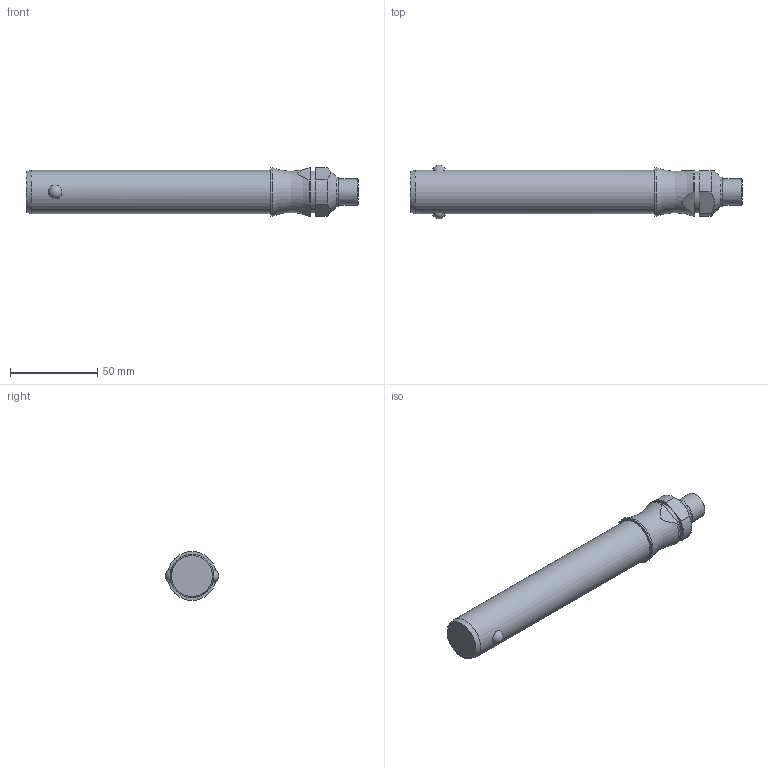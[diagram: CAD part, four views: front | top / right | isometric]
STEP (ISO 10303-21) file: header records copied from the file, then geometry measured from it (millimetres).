
FILE_DESCRIPTION( ( 'STEP AP203' ), '1' );
FILE_NAME( 'C:/Temp/Ganter_Step_05_03_2020/data/3_1/gn113_3/Stainless Steel-Ball lock pin GN 113.3-25-120 (deactivated).stp', '2020-03-12T08:19:12', ( 'License CC BY-ND 4.0' ), ( 'CADENAS' ), ' ', 'PARTsolutions', ' ' );
FILE_SCHEMA( ( 'CONFIG_CONTROL_DESIGN' ) );
Length unit declared in the file: millimetre
Products named in the file (1): _Stainless Steel-Ball lock pin GN 113.3-25-120 (deactivated)
Bounding box: 190.6 x 30.74 x 28 mm (x, y, z)
Volume: 89843.7 mm3; surface area: 15820.7 mm2
Topology: 1 solids, 1 shells, 29 faces, 62 edges, 40 vertices
Faces by surface type: plane 11, cylinder 11, cone 4, sphere 2, torus 1
Full cylindrical faces by diameter (mm): 15 x1, 17 x1, 24 x1, 25 x1, 28 x1
Entity records: 1006 total; most frequent: CARTESIAN_POINT 376, DIRECTION 126, ORIENTED_EDGE 100, AXIS2_PLACEMENT_3D 54, EDGE_CURVE 50, EDGE_LOOP 44, VERTEX_POINT 38, FACE_OUTER_BOUND 35
